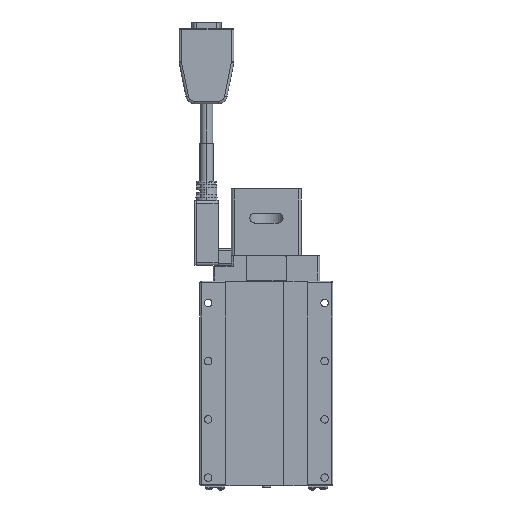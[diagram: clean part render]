
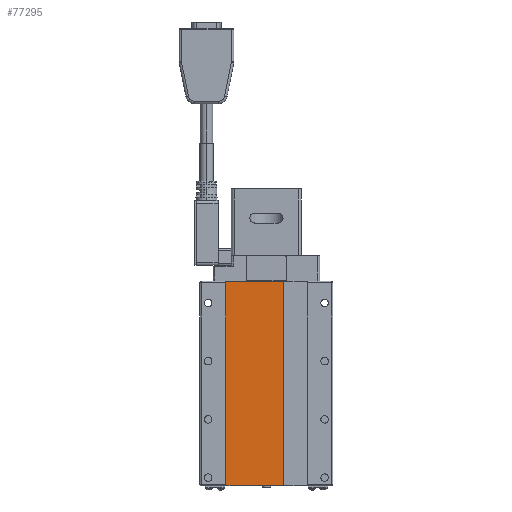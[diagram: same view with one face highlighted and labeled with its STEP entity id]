
A CAD part, front view. The second image highlights one B-rep face of the part: STEP entity #77295.
In plain terms, the highlighted planar face has unit normal (0, -1, 0).
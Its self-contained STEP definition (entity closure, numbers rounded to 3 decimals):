
#1672 = CARTESIAN_POINT ( 'NONE',  ( -24.3, 0.3, 0.2 ) ) ;
#3668 = LINE ( 'NONE', #63458, #33204 ) ;
#15584 = CARTESIAN_POINT ( 'NONE',  ( 10.3, 0.3, 122.8 ) ) ;
#17497 = FACE_OUTER_BOUND ( 'NONE', #32147, .T. ) ;
#17701 = VERTEX_POINT ( 'NONE', #15584 ) ;
#19908 = EDGE_CURVE ( 'NONE', #80441, #17701, #30287, .T. ) ;
#24189 = LINE ( 'NONE', #29906, #74270 ) ;
#24588 = CARTESIAN_POINT ( 'NONE',  ( -24.3, 0.3, 122.8 ) ) ;
#27671 = ORIENTED_EDGE ( 'NONE', *, *, #30749, .T. ) ;
#29906 = CARTESIAN_POINT ( 'NONE',  ( -24.3, 0.3, 122.8 ) ) ;
#30287 = LINE ( 'NONE', #56619, #65150 ) ;
#30547 = DIRECTION ( 'NONE',  ( 0., 0., -1. ) ) ;
#30749 = EDGE_CURVE ( 'NONE', #17701, #53341, #24189, .T. ) ;
#32147 = EDGE_LOOP ( 'NONE', ( #49217, #51067, #51115, #27671 ) ) ;
#33204 = VECTOR ( 'NONE', #30547, 1000. ) ;
#36000 = LINE ( 'NONE', #1672, #42243 ) ;
#37360 = DIRECTION ( 'NONE',  ( -1., 0., 0. ) ) ;
#37717 = VERTEX_POINT ( 'NONE', #75277 ) ;
#42243 = VECTOR ( 'NONE', #76818, 1000. ) ;
#44763 = DIRECTION ( 'NONE',  ( 0., 1., 0. ) ) ;
#49217 = ORIENTED_EDGE ( 'NONE', *, *, #64438, .T. ) ;
#51067 = ORIENTED_EDGE ( 'NONE', *, *, #56433, .T. ) ;
#51115 = ORIENTED_EDGE ( 'NONE', *, *, #19908, .T. ) ;
#52660 = PLANE ( 'NONE',  #55535 ) ;
#53341 = VERTEX_POINT ( 'NONE', #54472 ) ;
#54472 = CARTESIAN_POINT ( 'NONE',  ( -24.3, 0.3, 122.8 ) ) ;
#55535 = AXIS2_PLACEMENT_3D ( 'NONE', #24588, #44763, #71529 ) ;
#56433 = EDGE_CURVE ( 'NONE', #37717, #80441, #36000, .T. ) ;
#56619 = CARTESIAN_POINT ( 'NONE',  ( 10.3, 0.3, 0.2 ) ) ;
#57043 = DIRECTION ( 'NONE',  ( 0., 0., 1. ) ) ;
#63402 = CARTESIAN_POINT ( 'NONE',  ( 10.3, 0.3, 0.2 ) ) ;
#63458 = CARTESIAN_POINT ( 'NONE',  ( -24.3, 0.3, 0.2 ) ) ;
#64438 = EDGE_CURVE ( 'NONE', #53341, #37717, #3668, .T. ) ;
#65150 = VECTOR ( 'NONE', #57043, 1000. ) ;
#71529 = DIRECTION ( 'NONE',  ( -1., 0., 0. ) ) ;
#74270 = VECTOR ( 'NONE', #37360, 1000. ) ;
#75277 = CARTESIAN_POINT ( 'NONE',  ( -24.3, 0.3, 0.2 ) ) ;
#76818 = DIRECTION ( 'NONE',  ( 1., 0., 0. ) ) ;
#77295 = ADVANCED_FACE ( 'NONE', ( #17497 ), #52660, .F. ) ;
#80441 = VERTEX_POINT ( 'NONE', #63402 ) ;
